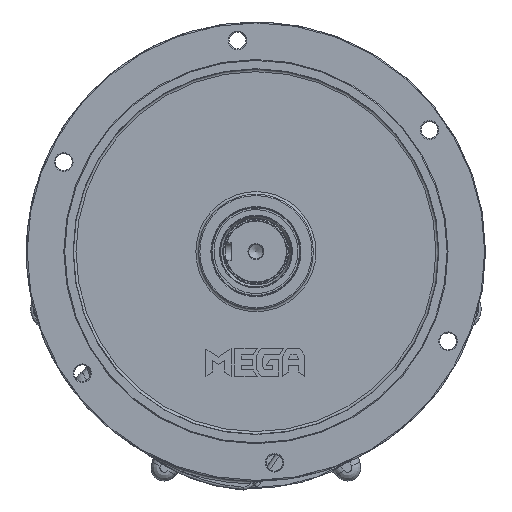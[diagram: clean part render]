
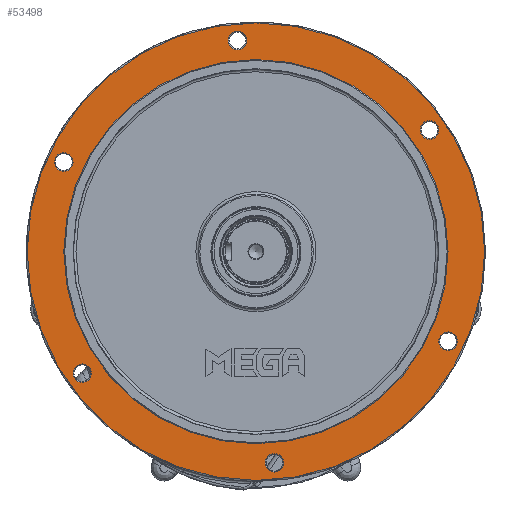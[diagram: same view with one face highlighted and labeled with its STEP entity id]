
A CAD part, front view. The second image highlights one B-rep face of the part: STEP entity #53498.
In plain terms, the highlighted planar face has unit normal (0, -1, 0).
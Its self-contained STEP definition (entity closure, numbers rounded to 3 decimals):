
#3163=FACE_BOUND('',#8825,.T.);
#3164=FACE_BOUND('',#8826,.T.);
#3165=FACE_BOUND('',#8827,.T.);
#3166=FACE_BOUND('',#8828,.T.);
#3167=FACE_BOUND('',#8829,.T.);
#3168=FACE_BOUND('',#8830,.T.);
#3169=FACE_BOUND('',#8831,.T.);
#3682=PLANE('',#57859);
#5563=FACE_OUTER_BOUND('',#8824,.T.);
#8824=EDGE_LOOP('',(#38717));
#8825=EDGE_LOOP('',(#38718));
#8826=EDGE_LOOP('',(#38719));
#8827=EDGE_LOOP('',(#38720));
#8828=EDGE_LOOP('',(#38721));
#8829=EDGE_LOOP('',(#38722));
#8830=EDGE_LOOP('',(#38723));
#8831=EDGE_LOOP('',(#38724));
#18050=CIRCLE('',#57856,10.5);
#18053=CIRCLE('',#57860,259.);
#18054=CIRCLE('',#57861,10.5);
#18055=CIRCLE('',#57862,10.5);
#18056=CIRCLE('',#57863,10.5);
#18057=CIRCLE('',#57864,217.5);
#18058=CIRCLE('',#57865,10.5);
#18059=CIRCLE('',#57866,10.5);
#21995=VERTEX_POINT('',#95354);
#21998=VERTEX_POINT('',#95362);
#21999=VERTEX_POINT('',#95364);
#22000=VERTEX_POINT('',#95366);
#22001=VERTEX_POINT('',#95368);
#22002=VERTEX_POINT('',#95370);
#22003=VERTEX_POINT('',#95372);
#22004=VERTEX_POINT('',#95374);
#28060=EDGE_CURVE('',#21995,#21995,#18050,.T.);
#28064=EDGE_CURVE('',#21998,#21998,#18053,.T.);
#28065=EDGE_CURVE('',#21999,#21999,#18054,.T.);
#28066=EDGE_CURVE('',#22000,#22000,#18055,.T.);
#28067=EDGE_CURVE('',#22001,#22001,#18056,.T.);
#28068=EDGE_CURVE('',#22002,#22002,#18057,.T.);
#28069=EDGE_CURVE('',#22003,#22003,#18058,.T.);
#28070=EDGE_CURVE('',#22004,#22004,#18059,.T.);
#38717=ORIENTED_EDGE('',*,*,#28064,.F.);
#38718=ORIENTED_EDGE('',*,*,#28065,.F.);
#38719=ORIENTED_EDGE('',*,*,#28066,.F.);
#38720=ORIENTED_EDGE('',*,*,#28067,.F.);
#38721=ORIENTED_EDGE('',*,*,#28068,.F.);
#38722=ORIENTED_EDGE('',*,*,#28069,.F.);
#38723=ORIENTED_EDGE('',*,*,#28070,.F.);
#38724=ORIENTED_EDGE('',*,*,#28060,.F.);
#53498=ADVANCED_FACE('',(#5563,#3163,#3164,#3165,#3166,#3167,#3168,#3169),
#3682,.T.);
#57856=AXIS2_PLACEMENT_3D('',#95355,#67045,#67046);
#57859=AXIS2_PLACEMENT_3D('',#95361,#67052,#67053);
#57860=AXIS2_PLACEMENT_3D('',#95363,#67054,#67055);
#57861=AXIS2_PLACEMENT_3D('',#95365,#67056,#67057);
#57862=AXIS2_PLACEMENT_3D('',#95367,#67058,#67059);
#57863=AXIS2_PLACEMENT_3D('',#95369,#67060,#67061);
#57864=AXIS2_PLACEMENT_3D('',#95371,#67062,#67063);
#57865=AXIS2_PLACEMENT_3D('',#95373,#67064,#67065);
#57866=AXIS2_PLACEMENT_3D('',#95375,#67066,#67067);
#67045=DIRECTION('center_axis',(0.,-1.,0.));
#67046=DIRECTION('ref_axis',(-0.5,0.,-0.866));
#67052=DIRECTION('center_axis',(0.,-1.,0.));
#67053=DIRECTION('ref_axis',(0.,0.,-1.));
#67054=DIRECTION('center_axis',(0.,1.,0.));
#67055=DIRECTION('ref_axis',(-1.,0.,0.));
#67056=DIRECTION('center_axis',(0.,-1.,0.));
#67057=DIRECTION('ref_axis',(0.5,0.,-0.866));
#67058=DIRECTION('center_axis',(0.,-1.,0.));
#67059=DIRECTION('ref_axis',(0.5,0.,0.866));
#67060=DIRECTION('center_axis',(0.,-1.,0.));
#67061=DIRECTION('ref_axis',(-1.,0.,0.));
#67062=DIRECTION('center_axis',(0.,-1.,0.));
#67063=DIRECTION('ref_axis',(-1.,0.,0.));
#67064=DIRECTION('center_axis',(0.,-1.,0.));
#67065=DIRECTION('ref_axis',(-0.5,0.,0.866));
#67066=DIRECTION('center_axis',(0.,-1.,0.));
#67067=DIRECTION('ref_axis',(1.,0.,0.));
#95354=CARTESIAN_POINT('',(-212.035,-235.728,173.772));
#95355=CARTESIAN_POINT('Origin',(-217.285,-235.728,164.678));
#95361=CARTESIAN_POINT('Origin',(0.228,-235.728,63.252));
#95362=CARTESIAN_POINT('',(259.228,-235.728,63.25));
#95363=CARTESIAN_POINT('Origin',(0.228,-235.728,63.25));
#95364=CARTESIAN_POINT('',(-201.618,-235.728,-65.315));
#95365=CARTESIAN_POINT('Origin',(-196.368,-235.728,-74.408));
#95366=CARTESIAN_POINT('',(212.492,-235.728,-47.272));
#95367=CARTESIAN_POINT('Origin',(217.742,-235.728,-38.178));
#95368=CARTESIAN_POINT('',(-10.189,-235.728,302.337));
#95369=CARTESIAN_POINT('Origin',(-20.689,-235.728,302.337));
#95370=CARTESIAN_POINT('',(217.728,-235.728,63.25));
#95371=CARTESIAN_POINT('Origin',(0.228,-235.728,63.25));
#95372=CARTESIAN_POINT('',(202.075,-235.728,191.815));
#95373=CARTESIAN_POINT('Origin',(196.825,-235.728,200.908));
#95374=CARTESIAN_POINT('',(10.646,-235.728,-175.837));
#95375=CARTESIAN_POINT('Origin',(21.146,-235.728,-175.837));
